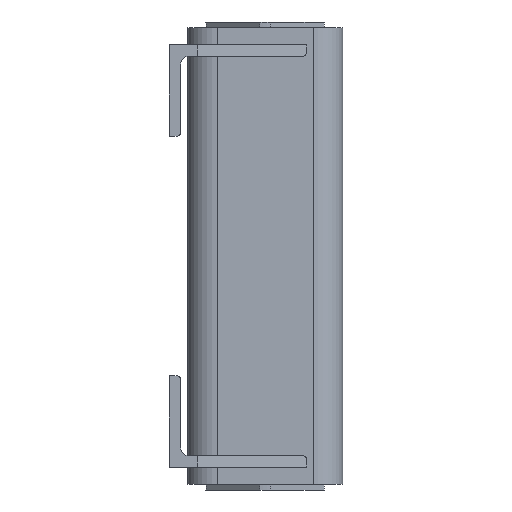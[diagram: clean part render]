
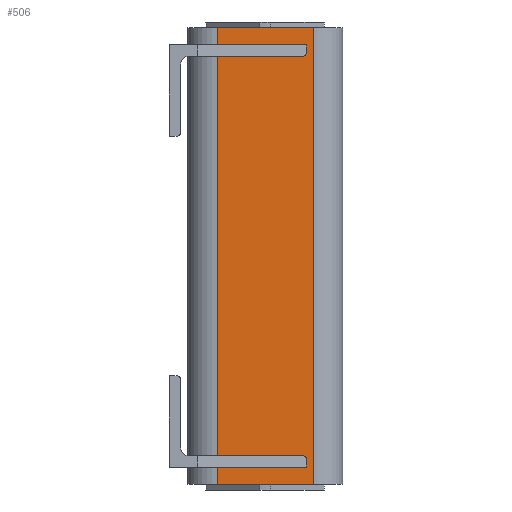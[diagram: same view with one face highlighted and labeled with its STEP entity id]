
A CAD part, front view. The second image highlights one B-rep face of the part: STEP entity #506.
In plain terms, the highlighted planar face has unit normal (0, -1, 0).
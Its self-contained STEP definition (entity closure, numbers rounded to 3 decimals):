
#448=CARTESIAN_POINT('',(42.0,-68.,400.0));
#449=VERTEX_POINT('',#448);
#457=CARTESIAN_POINT('',(42.0,-68.,0.0));
#458=VERTEX_POINT('',#457);
#459=CARTESIAN_POINT('',(42.0,-68.,0.0));
#460=DIRECTION('',(0.0,0.0,1.0));
#461=VECTOR('',#460,400.0);
#462=LINE('',#459,#461);
#463=EDGE_CURVE('',#458,#449,#462,.T.);
#476=CARTESIAN_POINT('',(42.0,-68.,0.0));
#477=DIRECTION('',(0.0,-1.0,0.0));
#478=DIRECTION('',(0.0,0.0,-1.0));
#479=AXIS2_PLACEMENT_3D('',#476,#477,#478);
#480=PLANE('',#479);
#481=CARTESIAN_POINT('',(-42.0,-68.0,400.0));
#482=VERTEX_POINT('',#481);
#483=CARTESIAN_POINT('',(42.0,-68.,400.0));
#484=DIRECTION('',(-1.0,0.0,0.0));
#485=VECTOR('',#484,84.0);
#486=LINE('',#483,#485);
#487=EDGE_CURVE('',#449,#482,#486,.T.);
#488=ORIENTED_EDGE('',*,*,#487,.T.);
#489=CARTESIAN_POINT('',(-42.0,-68.0,0.0));
#490=VERTEX_POINT('',#489);
#491=CARTESIAN_POINT('',(-42.0,-68.0,0.0));
#492=DIRECTION('',(0.0,0.0,1.0));
#493=VECTOR('',#492,400.0);
#494=LINE('',#491,#493);
#495=EDGE_CURVE('',#490,#482,#494,.T.);
#496=ORIENTED_EDGE('',*,*,#495,.F.);
#497=CARTESIAN_POINT('',(-42.0,-68.0,0.0));
#498=DIRECTION('',(1.0,0.0,0.0));
#499=VECTOR('',#498,84.0);
#500=LINE('',#497,#499);
#501=EDGE_CURVE('',#490,#458,#500,.T.);
#502=ORIENTED_EDGE('',*,*,#501,.T.);
#503=ORIENTED_EDGE('',*,*,#463,.T.);
#504=EDGE_LOOP('',(#488,#496,#502,#503));
#505=FACE_OUTER_BOUND('',#504,.T.);
#506=ADVANCED_FACE('',(#505),#480,.T.);
